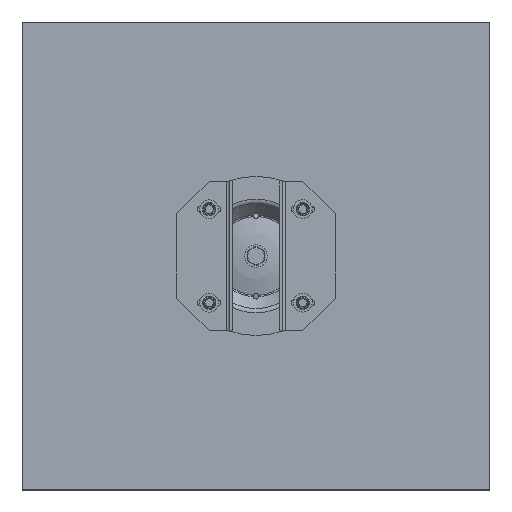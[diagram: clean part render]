
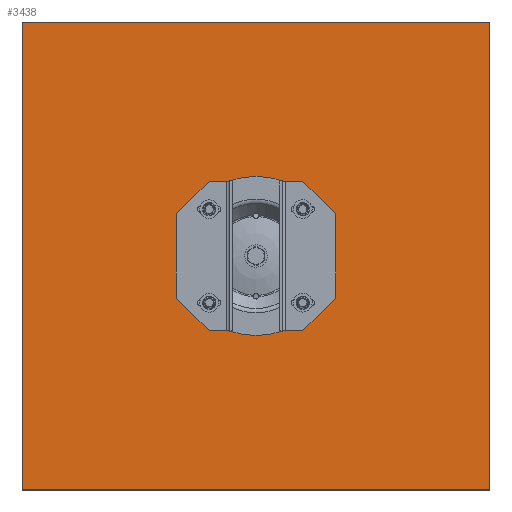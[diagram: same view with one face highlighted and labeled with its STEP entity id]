
A CAD part, top view. The second image highlights one B-rep face of the part: STEP entity #3438.
In plain terms, the highlighted planar face has unit normal (0, 0, 1).
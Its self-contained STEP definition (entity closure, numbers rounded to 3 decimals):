
#277=FACE_BOUND('',#841,.T.);
#340=PLANE('',#4284);
#586=FACE_OUTER_BOUND('',#840,.T.);
#840=EDGE_LOOP('',(#2943,#2944,#2945,#2946));
#841=EDGE_LOOP('',(#2947));
#1060=LINE('',#6576,#1263);
#1064=LINE('',#6584,#1267);
#1067=LINE('',#6590,#1270);
#1070=LINE('',#6595,#1273);
#1263=VECTOR('',#5135,10.);
#1267=VECTOR('',#5141,10.);
#1270=VECTOR('',#5146,10.);
#1273=VECTOR('',#5151,10.);
#1487=CIRCLE('',#4285,50.);
#1738=VERTEX_POINT('',#6574);
#1739=VERTEX_POINT('',#6575);
#1742=VERTEX_POINT('',#6583);
#1744=VERTEX_POINT('',#6589);
#1750=VERTEX_POINT('',#6608);
#2149=EDGE_CURVE('',#1738,#1739,#1060,.T.);
#2153=EDGE_CURVE('',#1739,#1742,#1064,.T.);
#2156=EDGE_CURVE('',#1742,#1744,#1067,.T.);
#2159=EDGE_CURVE('',#1744,#1738,#1070,.T.);
#2166=EDGE_CURVE('',#1750,#1750,#1487,.T.);
#2943=ORIENTED_EDGE('',*,*,#2159,.T.);
#2944=ORIENTED_EDGE('',*,*,#2149,.T.);
#2945=ORIENTED_EDGE('',*,*,#2153,.T.);
#2946=ORIENTED_EDGE('',*,*,#2156,.T.);
#2947=ORIENTED_EDGE('',*,*,#2166,.T.);
#3438=ADVANCED_FACE('',(#586,#277),#340,.T.);
#4284=AXIS2_PLACEMENT_3D('',#6607,#5164,#5165);
#4285=AXIS2_PLACEMENT_3D('',#6609,#5166,#5167);
#5135=DIRECTION('',(-1.,0.,0.));
#5141=DIRECTION('',(0.,-1.,0.));
#5146=DIRECTION('',(1.,0.,0.));
#5151=DIRECTION('',(0.,1.,0.));
#5164=DIRECTION('center_axis',(0.,0.,1.));
#5165=DIRECTION('ref_axis',(1.,0.,0.));
#5166=DIRECTION('center_axis',(0.,0.,-1.));
#5167=DIRECTION('ref_axis',(1.,0.,0.));
#6574=CARTESIAN_POINT('',(250.,250.,-7.));
#6575=CARTESIAN_POINT('',(-250.,250.,-7.));
#6576=CARTESIAN_POINT('',(250.,250.,-7.));
#6583=CARTESIAN_POINT('',(-250.,-250.,-7.));
#6584=CARTESIAN_POINT('',(-250.,250.,-7.));
#6589=CARTESIAN_POINT('',(250.,-250.,-7.));
#6590=CARTESIAN_POINT('',(-250.,-250.,-7.));
#6595=CARTESIAN_POINT('',(250.,-250.,-7.));
#6607=CARTESIAN_POINT('Origin',(80.,0.,-7.));
#6608=CARTESIAN_POINT('',(50.,0.,-7.));
#6609=CARTESIAN_POINT('Origin',(0.,0.,-7.));
